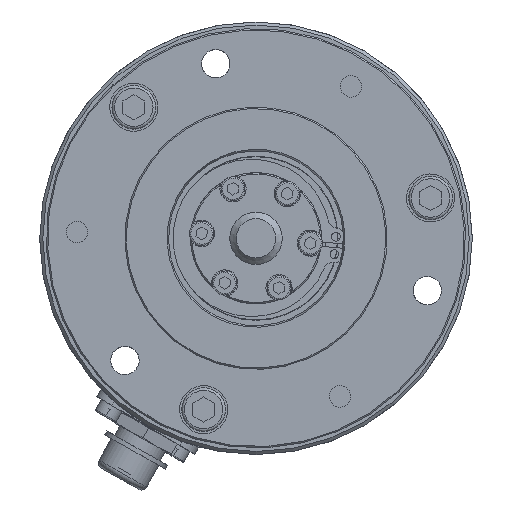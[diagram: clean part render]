
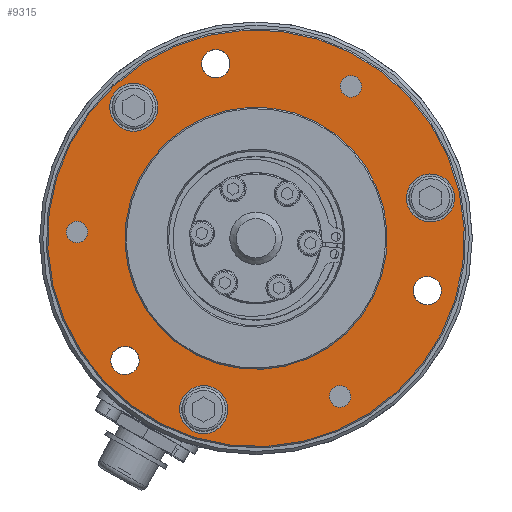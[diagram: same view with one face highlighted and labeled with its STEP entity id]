
A CAD part, left-side view. The second image highlights one B-rep face of the part: STEP entity #9315.
In plain terms, the highlighted planar face has unit normal (-1, 0, 0).
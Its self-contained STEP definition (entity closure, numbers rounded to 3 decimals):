
#1663=FACE_BOUND('',#2677,.T.);
#1664=FACE_BOUND('',#2678,.T.);
#1665=FACE_BOUND('',#2679,.T.);
#1666=FACE_BOUND('',#2680,.T.);
#1667=FACE_BOUND('',#2681,.T.);
#1668=FACE_BOUND('',#2682,.T.);
#1669=FACE_BOUND('',#2683,.T.);
#1670=FACE_BOUND('',#2684,.T.);
#1671=FACE_BOUND('',#2685,.T.);
#1672=FACE_BOUND('',#2686,.T.);
#2009=FACE_OUTER_BOUND('',#2676,.T.);
#2676=EDGE_LOOP('',(#6325));
#2677=EDGE_LOOP('',(#6326));
#2678=EDGE_LOOP('',(#6327));
#2679=EDGE_LOOP('',(#6328));
#2680=EDGE_LOOP('',(#6329));
#2681=EDGE_LOOP('',(#6330));
#2682=EDGE_LOOP('',(#6331));
#2683=EDGE_LOOP('',(#6332));
#2684=EDGE_LOOP('',(#6333));
#2685=EDGE_LOOP('',(#6334));
#2686=EDGE_LOOP('',(#6335));
#3491=CIRCLE('',#10047,2.459);
#3492=CIRCLE('',#10049,2.459);
#3493=CIRCLE('',#10051,2.459);
#3494=CIRCLE('',#10053,5.5);
#3497=CIRCLE('',#10058,5.5);
#3500=CIRCLE('',#10063,5.5);
#3503=CIRCLE('',#10068,3.25);
#3504=CIRCLE('',#10070,3.25);
#3505=CIRCLE('',#10072,3.25);
#3506=CIRCLE('',#10074,30.);
#3510=CIRCLE('',#10081,47.7);
#4038=VERTEX_POINT('',#14267);
#4039=VERTEX_POINT('',#14270);
#4040=VERTEX_POINT('',#14273);
#4041=VERTEX_POINT('',#14276);
#4044=VERTEX_POINT('',#14284);
#4047=VERTEX_POINT('',#14292);
#4050=VERTEX_POINT('',#14300);
#4051=VERTEX_POINT('',#14303);
#4052=VERTEX_POINT('',#14306);
#4053=VERTEX_POINT('',#14309);
#4057=VERTEX_POINT('',#14320);
#4958=EDGE_CURVE('',#4038,#4038,#3491,.T.);
#4959=EDGE_CURVE('',#4039,#4039,#3492,.T.);
#4960=EDGE_CURVE('',#4040,#4040,#3493,.T.);
#4961=EDGE_CURVE('',#4041,#4041,#3494,.T.);
#4964=EDGE_CURVE('',#4044,#4044,#3497,.T.);
#4967=EDGE_CURVE('',#4047,#4047,#3500,.T.);
#4970=EDGE_CURVE('',#4050,#4050,#3503,.T.);
#4971=EDGE_CURVE('',#4051,#4051,#3504,.T.);
#4972=EDGE_CURVE('',#4052,#4052,#3505,.T.);
#4973=EDGE_CURVE('',#4053,#4053,#3506,.T.);
#4977=EDGE_CURVE('',#4057,#4057,#3510,.T.);
#6325=ORIENTED_EDGE('',*,*,#4977,.F.);
#6326=ORIENTED_EDGE('',*,*,#4973,.T.);
#6327=ORIENTED_EDGE('',*,*,#4958,.T.);
#6328=ORIENTED_EDGE('',*,*,#4959,.T.);
#6329=ORIENTED_EDGE('',*,*,#4960,.T.);
#6330=ORIENTED_EDGE('',*,*,#4961,.T.);
#6331=ORIENTED_EDGE('',*,*,#4964,.T.);
#6332=ORIENTED_EDGE('',*,*,#4967,.T.);
#6333=ORIENTED_EDGE('',*,*,#4970,.T.);
#6334=ORIENTED_EDGE('',*,*,#4971,.T.);
#6335=ORIENTED_EDGE('',*,*,#4972,.T.);
#8369=PLANE('',#10080);
#9315=ADVANCED_FACE('',(#2009,#1663,#1664,#1665,#1666,#1667,#1668,#1669,
#1670,#1671,#1672),#8369,.T.);
#10047=AXIS2_PLACEMENT_3D('',#14268,#11438,#11439);
#10049=AXIS2_PLACEMENT_3D('',#14271,#11442,#11443);
#10051=AXIS2_PLACEMENT_3D('',#14274,#11446,#11447);
#10053=AXIS2_PLACEMENT_3D('',#14277,#11450,#11451);
#10058=AXIS2_PLACEMENT_3D('',#14285,#11460,#11461);
#10063=AXIS2_PLACEMENT_3D('',#14293,#11470,#11471);
#10068=AXIS2_PLACEMENT_3D('',#14301,#11480,#11481);
#10070=AXIS2_PLACEMENT_3D('',#14304,#11484,#11485);
#10072=AXIS2_PLACEMENT_3D('',#14307,#11488,#11489);
#10074=AXIS2_PLACEMENT_3D('',#14310,#11492,#11493);
#10080=AXIS2_PLACEMENT_3D('',#14319,#11504,#11505);
#10081=AXIS2_PLACEMENT_3D('',#14321,#11506,#11507);
#11438=DIRECTION('center_axis',(1.,0.,0.));
#11439=DIRECTION('ref_axis',(0.,-0.225,-0.974));
#11442=DIRECTION('center_axis',(1.,0.,0.));
#11443=DIRECTION('ref_axis',(0.,-0.225,-0.974));
#11446=DIRECTION('center_axis',(1.,0.,0.));
#11447=DIRECTION('ref_axis',(0.,-0.225,-0.974));
#11450=DIRECTION('center_axis',(1.,0.,0.));
#11451=DIRECTION('ref_axis',(0.,-0.225,-0.974));
#11460=DIRECTION('center_axis',(1.,0.,0.));
#11461=DIRECTION('ref_axis',(0.,-0.225,-0.974));
#11470=DIRECTION('center_axis',(1.,0.,0.));
#11471=DIRECTION('ref_axis',(0.,-0.225,-0.974));
#11480=DIRECTION('center_axis',(1.,0.,0.));
#11481=DIRECTION('ref_axis',(0.,-0.225,-0.974));
#11484=DIRECTION('center_axis',(1.,0.,0.));
#11485=DIRECTION('ref_axis',(0.,-0.225,-0.974));
#11488=DIRECTION('center_axis',(1.,0.,0.));
#11489=DIRECTION('ref_axis',(0.,-0.225,-0.974));
#11492=DIRECTION('center_axis',(1.,0.,0.));
#11493=DIRECTION('ref_axis',(0.,-0.974,0.225));
#11504=DIRECTION('center_axis',(-1.,0.,0.));
#11505=DIRECTION('ref_axis',(0.,-0.225,-0.974));
#11506=DIRECTION('center_axis',(1.,0.,0.));
#11507=DIRECTION('ref_axis',(0.,0.974,-0.225));
#14267=CARTESIAN_POINT('',(-14.5,-19.801,-38.596));
#14268=CARTESIAN_POINT('Origin',(-14.5,-19.248,-36.201));
#14270=CARTESIAN_POINT('',(-14.5,-22.28,32.374));
#14271=CARTESIAN_POINT('Origin',(-14.5,-21.727,34.77));
#14273=CARTESIAN_POINT('',(-14.5,40.422,-0.965));
#14274=CARTESIAN_POINT('Origin',(-14.5,40.975,1.431));
#14276=CARTESIAN_POINT('',(-14.5,26.725,24.626));
#14277=CARTESIAN_POINT('Origin',(-14.5,27.962,29.986));
#14284=CARTESIAN_POINT('',(-14.5,-41.186,3.864));
#14285=CARTESIAN_POINT('Origin',(-14.5,-39.949,9.223));
#14292=CARTESIAN_POINT('',(-14.5,10.75,-44.568));
#14293=CARTESIAN_POINT('Origin',(-14.5,11.987,-39.208));
#14300=CARTESIAN_POINT('',(-14.5,8.492,36.782));
#14301=CARTESIAN_POINT('Origin',(-14.5,9.223,39.949));
#14303=CARTESIAN_POINT('',(-14.5,-39.94,-15.154));
#14304=CARTESIAN_POINT('Origin',(-14.5,-39.208,-11.987));
#14306=CARTESIAN_POINT('',(-14.5,29.254,-31.129));
#14307=CARTESIAN_POINT('Origin',(-14.5,29.986,-27.962));
#14309=CARTESIAN_POINT('',(-14.5,-29.231,6.749));
#14310=CARTESIAN_POINT('Origin',(-14.5,0.,0.));
#14319=CARTESIAN_POINT('Origin',(-14.5,-38.,8.773));
#14320=CARTESIAN_POINT('',(-14.5,-46.477,10.73));
#14321=CARTESIAN_POINT('Origin',(-14.5,0.,0.));
